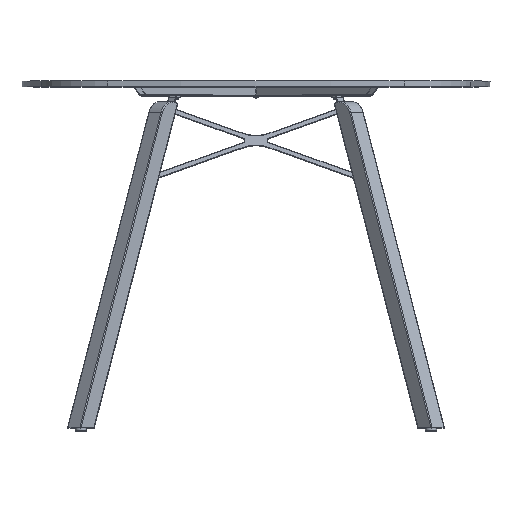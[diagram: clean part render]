
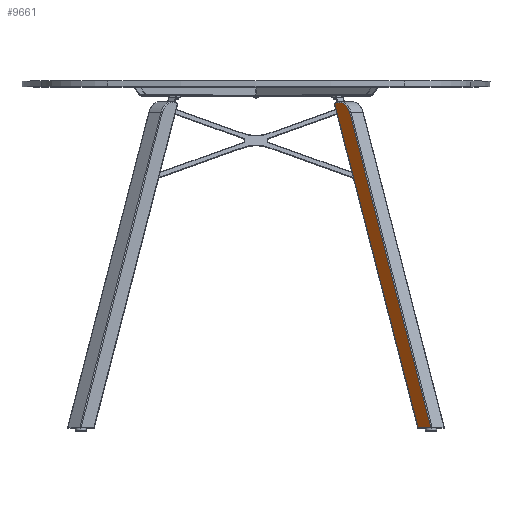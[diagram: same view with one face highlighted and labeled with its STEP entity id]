
A CAD part, top view. The second image highlights one B-rep face of the part: STEP entity #9661.
In plain terms, the highlighted planar face has unit normal (-0.707, 0, 0.707) as drawn and (0, 0, -1) by its records, which use the part's own axes.
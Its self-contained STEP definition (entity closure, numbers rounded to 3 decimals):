
#589 = EDGE_LOOP ( 'NONE', ( #671, #629, #664, #704, #697 ) ) ;
#629 = ORIENTED_EDGE ( 'NONE', *, *, #7624, .T. ) ;
#664 = ORIENTED_EDGE ( 'NONE', *, *, #7623, .T. ) ;
#671 = ORIENTED_EDGE ( 'NONE', *, *, #7633, .F. ) ;
#697 = ORIENTED_EDGE ( 'NONE', *, *, #7621, .T. ) ;
#704 = ORIENTED_EDGE ( 'NONE', *, *, #7622, .T. ) ;
#1453 = CARTESIAN_POINT ( 'NONE',  ( 14.805, 337.464, 0. ) ) ;
#1464 = FACE_OUTER_BOUND ( 'NONE', #589, .T. ) ;
#1465 = PLANE ( 'NONE',  #4410 ) ;
#1467 = DIRECTION ( 'NONE',  ( 0., 0., 1. ) ) ;
#1468 = DIRECTION ( 'NONE',  ( 1., 0., 0. ) ) ;
#3520 = CARTESIAN_POINT ( 'NONE',  ( 17.805, 370.464, 0. ) ) ;
#3627 = CARTESIAN_POINT ( 'NONE',  ( -18.195, 337.464, 0. ) ) ;
#3699 = CARTESIAN_POINT ( 'NONE',  ( 17.805, -365.984, 0. ) ) ;
#3765 = CARTESIAN_POINT ( 'NONE',  ( 14.805, 370.464, 0. ) ) ;
#3843 = CARTESIAN_POINT ( 'NONE',  ( -18.195, -379.087, 0. ) ) ;
#4410 = AXIS2_PLACEMENT_3D ( 'NONE', #1453, #1467, #1468 ) ;
#4670 = CIRCLE ( 'NONE', #4777, 33. ) ;
#4687 = VECTOR ( 'NONE', #9156, 1000. ) ;
#4755 = VECTOR ( 'NONE', #9158, 1000. ) ;
#4761 = VECTOR ( 'NONE', #9194, 1000. ) ;
#4777 = AXIS2_PLACEMENT_3D ( 'NONE', #9160, #9161, #9162 ) ;
#4926 = VECTOR ( 'NONE', #9163, 1000. ) ;
#7621 = EDGE_CURVE ( 'NONE', #10131, #10535, #9151, .T. ) ;
#7622 = EDGE_CURVE ( 'NONE', #10672, #10131, #9149, .T. ) ;
#7623 = EDGE_CURVE ( 'NONE', #10375, #10672, #4670, .T. ) ;
#7624 = EDGE_CURVE ( 'NONE', #10826, #10375, #9155, .T. ) ;
#7633 = EDGE_CURVE ( 'NONE', #10826, #10535, #9192, .T. ) ;
#9143 = CARTESIAN_POINT ( 'NONE',  ( 17.805, 337.464, 0. ) ) ;
#9149 = LINE ( 'NONE', #9157, #4755 ) ;
#9150 = CARTESIAN_POINT ( 'NONE',  ( -18.195, 337.464, 0. ) ) ;
#9151 = LINE ( 'NONE', #9143, #4687 ) ;
#9155 = LINE ( 'NONE', #9150, #4926 ) ;
#9156 = DIRECTION ( 'NONE',  ( 0., -1., 0. ) ) ;
#9157 = CARTESIAN_POINT ( 'NONE',  ( 14.805, 370.464, 0. ) ) ;
#9158 = DIRECTION ( 'NONE',  ( 1., 0., 0. ) ) ;
#9160 = CARTESIAN_POINT ( 'NONE',  ( 14.805, 337.464, 0. ) ) ;
#9161 = DIRECTION ( 'NONE',  ( 0., 0., -1. ) ) ;
#9162 = DIRECTION ( 'NONE',  ( 1., 0., 0. ) ) ;
#9163 = DIRECTION ( 'NONE',  ( 0., 1., 0. ) ) ;
#9192 = LINE ( 'NONE', #9193, #4761 ) ;
#9193 = CARTESIAN_POINT ( 'NONE',  ( 19.805, -365.256, 0. ) ) ;
#9194 = DIRECTION ( 'NONE',  ( 0.94, 0.342, 0. ) ) ;
#9661 = ADVANCED_FACE ( 'NONE', ( #1464 ), #1465, .F. ) ;
#10131 = VERTEX_POINT ( 'NONE', #3520 ) ;
#10375 = VERTEX_POINT ( 'NONE', #3627 ) ;
#10535 = VERTEX_POINT ( 'NONE', #3699 ) ;
#10672 = VERTEX_POINT ( 'NONE', #3765 ) ;
#10826 = VERTEX_POINT ( 'NONE', #3843 ) ;
